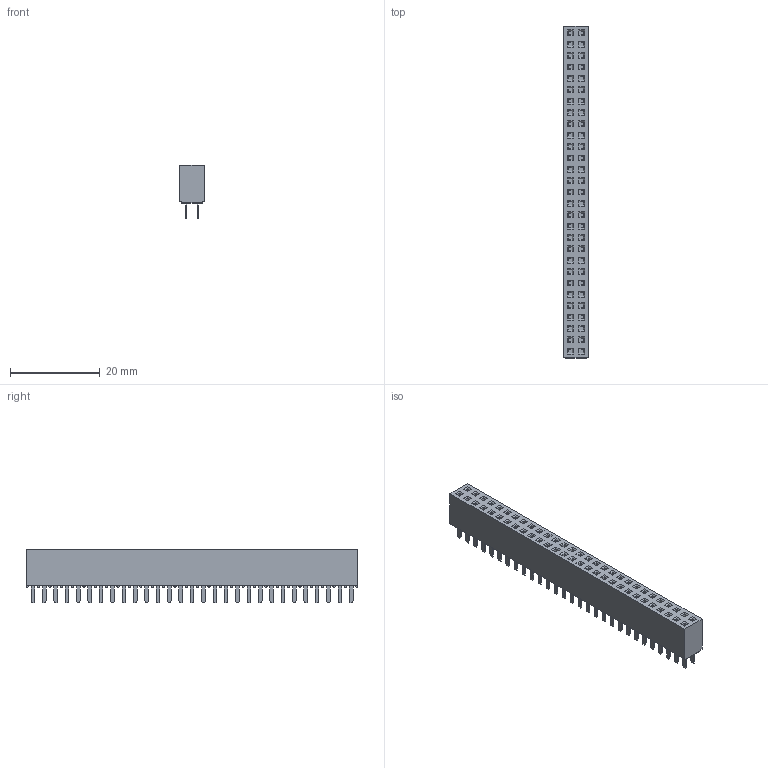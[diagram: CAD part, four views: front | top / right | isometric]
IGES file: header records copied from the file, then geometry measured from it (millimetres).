
Global section: file name: N:\GOLF_VI_2_54mm_UGII\960XXX-6X0X-XX (TS-2187)\960258-6303-XX.igs; native system: NX V3.0; preprocessor: UGS NX IGES V4.0; date: 20070618.080246; units: millimetre
Bounding box: 5.5 x 74.16 x 12 mm (x, y, z)
Surface area: 3298.7 mm2 (no closed solid volume)
Topology: 0 solids, 0 shells, 1142 faces, 5512 edges, 5512 vertices
Faces by surface type: bspline 1142
